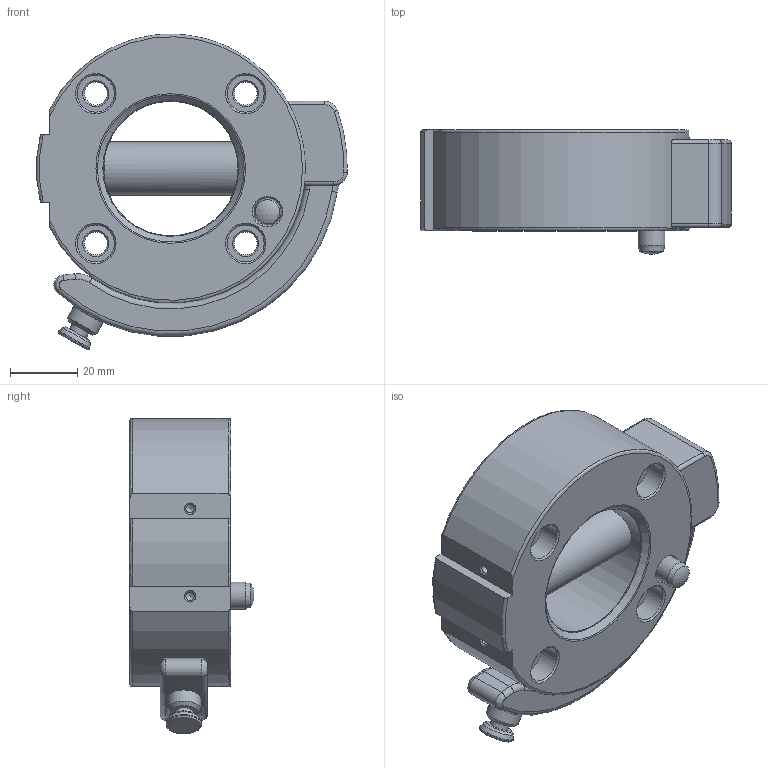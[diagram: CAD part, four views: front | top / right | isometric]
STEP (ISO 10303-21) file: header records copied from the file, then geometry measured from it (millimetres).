
FILE_DESCRIPTION(/* description */ (''),/* implementation_level */ '2;1');
FILE_NAME(/* name */ '\\dc01\Daten\CAD\Standard\Daten\3D-Datenbank\SHW\4 - 3D-CAD-Daten SHW\SHW080\step-Daten\G-SHW080-2OE Vereinfachung.stp',/* time_stamp */ '2020-05-18T16:25:15+02:00',/* author */ ('GRIP'),/* organization */ (''),/* preprocessor_version */ 'ST-DEVELOPER v17',/* originating_system */ 'Autodesk Inventor 2018',/* authorisation */ '');
FILE_SCHEMA (('AUTOMOTIVE_DESIGN { 1 0 10303 214 3 1 1 }'));
Length unit declared in the file: millimetre
Products named in the file (1): G-SHW080-2OE
Bounding box: 92.35 x 36.96 x 93.88 mm (x, y, z)
Volume: 136223.1 mm3; surface area: 29330 mm2
Topology: 1 solids, 5 shells, 136 faces, 342 edges, 227 vertices
Faces by surface type: cylinder 46, torus 31, plane 29, cone 27, bspline 2, sphere 1
Full cylindrical faces by diameter (mm): 2.459 x2, 5.58 x1, 6 x1, 6.2 x1, 6.8 x4, 7 x1, 7.8 x1, 8 x1, 10 x1, 10.1 x1, 10.6 x1, 11 x4, 16 x1, 40 x1
Entity records: 4715 total; most frequent: CARTESIAN_POINT 1270, DIRECTION 752, ORIENTED_EDGE 680, EDGE_CURVE 340, AXIS2_PLACEMENT_3D 327, VERTEX_POINT 227, CIRCLE 191, EDGE_LOOP 165
